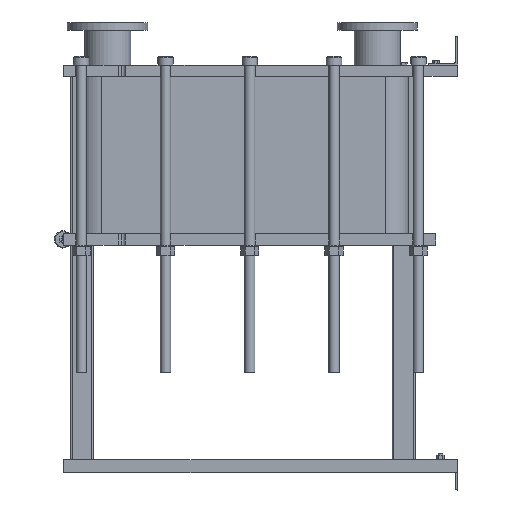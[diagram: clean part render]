
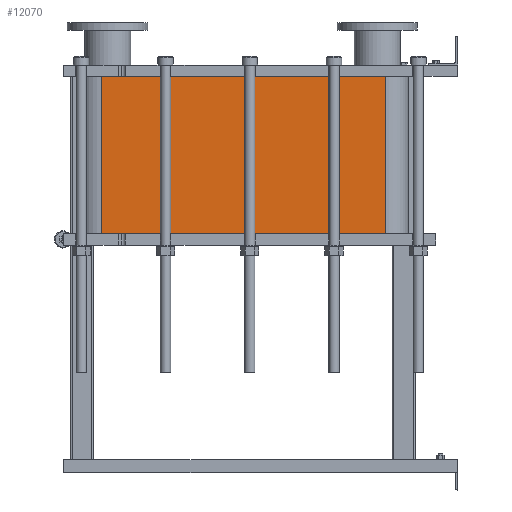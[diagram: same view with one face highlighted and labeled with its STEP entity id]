
A CAD part, left-side view. The second image highlights one B-rep face of the part: STEP entity #12070.
In plain terms, the highlighted planar face has unit normal (-1, 0, 0).
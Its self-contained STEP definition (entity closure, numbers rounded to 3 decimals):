
#1064=LINE('',#21140,#2164);
#1065=LINE('',#21144,#2165);
#1066=LINE('',#21146,#2166);
#1067=LINE('',#21147,#2167);
#2164=VECTOR('',#15790,10.);
#2165=VECTOR('',#15795,10.);
#2166=VECTOR('',#15796,10.);
#2167=VECTOR('',#15797,10.);
#3304=FACE_OUTER_BOUND('',#4091,.T.);
#4091=EDGE_LOOP('',(#9793,#9794,#9795,#9796));
#5677=VERTEX_POINT('',#21137);
#5678=VERTEX_POINT('',#21139);
#5679=VERTEX_POINT('',#21143);
#5680=VERTEX_POINT('',#21145);
#7118=EDGE_CURVE('',#5678,#5677,#1064,.T.);
#7120=EDGE_CURVE('',#5677,#5679,#1065,.T.);
#7121=EDGE_CURVE('',#5680,#5679,#1066,.T.);
#7122=EDGE_CURVE('',#5680,#5678,#1067,.T.);
#9793=ORIENTED_EDGE('',*,*,#7120,.T.);
#9794=ORIENTED_EDGE('',*,*,#7121,.F.);
#9795=ORIENTED_EDGE('',*,*,#7122,.T.);
#9796=ORIENTED_EDGE('',*,*,#7118,.T.);
#11441=PLANE('',#13191);
#12070=ADVANCED_FACE('',(#3304),#11441,.T.);
#13191=AXIS2_PLACEMENT_3D('',#21142,#15793,#15794);
#15790=DIRECTION('',(0.,0.,-1.));
#15793=DIRECTION('center_axis',(-1.,0.,0.));
#15794=DIRECTION('ref_axis',(0.,1.,0.));
#15795=DIRECTION('',(0.,-1.,0.));
#15796=DIRECTION('',(0.,0.,-1.));
#15797=DIRECTION('',(0.,1.,0.));
#21137=CARTESIAN_POINT('',(-248.152,1243.818,-548.55));
#21139=CARTESIAN_POINT('',(-248.152,1243.818,0.));
#21140=CARTESIAN_POINT('',(-248.152,1243.818,0.));
#21142=CARTESIAN_POINT('Origin',(-248.152,251.818,0.));
#21143=CARTESIAN_POINT('',(-248.152,251.818,-548.55));
#21144=CARTESIAN_POINT('',(-248.152,499.818,-548.55));
#21145=CARTESIAN_POINT('',(-248.152,251.818,0.));
#21146=CARTESIAN_POINT('',(-248.152,251.818,0.));
#21147=CARTESIAN_POINT('',(-248.152,251.818,0.));
